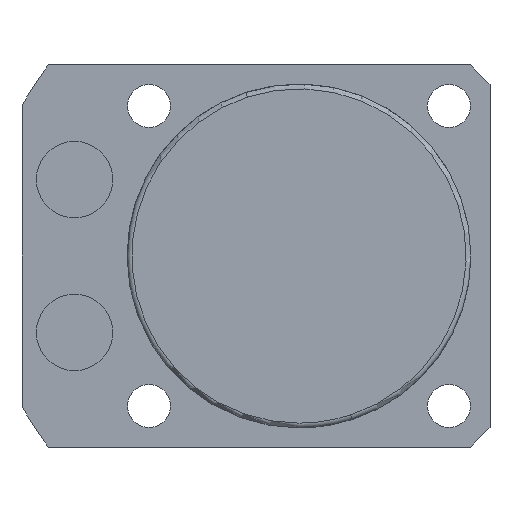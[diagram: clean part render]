
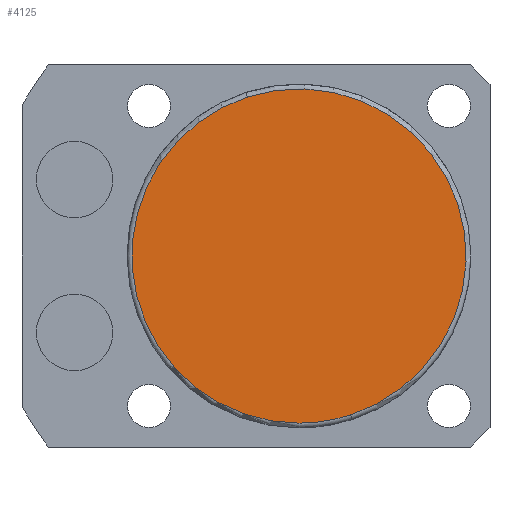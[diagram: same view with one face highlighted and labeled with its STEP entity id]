
A CAD part, front view. The second image highlights one B-rep face of the part: STEP entity #4125.
In plain terms, the highlighted planar face has unit normal (0, -1, 0).
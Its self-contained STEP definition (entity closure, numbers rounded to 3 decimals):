
#4091=CARTESIAN_POINT('',(0.0,-65.5,-17.5));
#4092=VERTEX_POINT('',#4091);
#4093=CARTESIAN_POINT('',(5.408,-65.5,-16.643));
#4094=VERTEX_POINT('',#4093);
#4095=CARTESIAN_POINT('',(0.0,-65.5,0.0));
#4096=DIRECTION('',(0.0,-1.0,0.0));
#4097=DIRECTION('',(0.0,0.0,-1.0));
#4098=AXIS2_PLACEMENT_3D('',#4095,#4096,#4097);
#4099=CIRCLE('',#4098,17.5);
#4100=EDGE_CURVE('no 2743',#4092,#4094,#4099,.T.);
#4101=ORIENTED_EDGE('',*,*,#4100,.T.);
#4102=CARTESIAN_POINT('',(-5.408,-65.5,16.643));
#4103=VERTEX_POINT('',#4102);
#4104=CARTESIAN_POINT('',(0.0,-65.5,0.0));
#4105=DIRECTION('',(0.0,-1.0,0.0));
#4106=DIRECTION('',(0.0,0.0,-1.0));
#4107=AXIS2_PLACEMENT_3D('',#4104,#4105,#4106);
#4108=CIRCLE('',#4107,17.5);
#4109=EDGE_CURVE('no 2749',#4094,#4103,#4108,.T.);
#4110=ORIENTED_EDGE('',*,*,#4109,.T.);
#4111=CARTESIAN_POINT('',(0.0,-65.5,0.0));
#4112=DIRECTION('',(0.0,-1.0,0.0));
#4113=DIRECTION('',(0.0,0.0,-1.0));
#4114=AXIS2_PLACEMENT_3D('',#4111,#4112,#4113);
#4115=CIRCLE('',#4114,17.5);
#4116=EDGE_CURVE('no 2753',#4103,#4092,#4115,.T.);
#4117=ORIENTED_EDGE('',*,*,#4116,.T.);
#4118=EDGE_LOOP('',(#4101,#4110,#4117));
#4119=FACE_OUTER_BOUND('',#4118,.T.);
#4120=CARTESIAN_POINT('',(0.0,-65.5,0.0));
#4121=DIRECTION('',(0.0,-1.0,0.0));
#4122=DIRECTION('',(0.0,0.0,-1.0));
#4123=AXIS2_PLACEMENT_3D('',#4120,#4121,#4122);
#4124=PLANE('',#4123);
#4125=ADVANCED_FACE('no 2734',(#4119),#4124,.T.);
